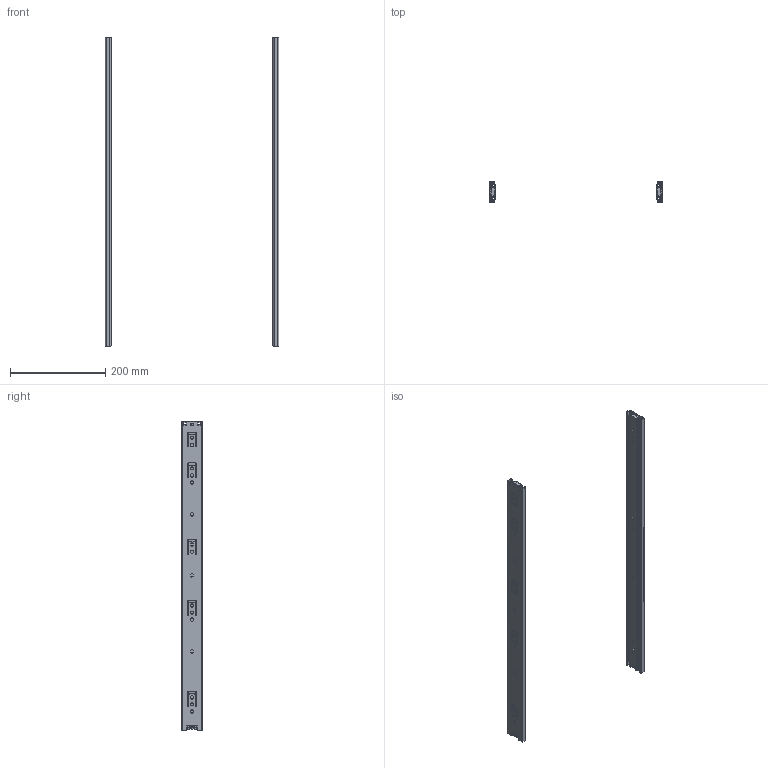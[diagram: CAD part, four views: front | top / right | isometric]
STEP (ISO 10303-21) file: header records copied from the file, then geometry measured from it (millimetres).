
FILE_DESCRIPTION(/* description */ (''),/* implementation_level */ '2;1');
FILE_NAME(/* name */ 'D:\$Workingspace\Designs\Katalog\Cadsoft\GTV Prowadnice\PK-PRO-H45\PK-PRO-H45-650.stp',/* time_stamp */ '2021-01-15T13:17:42+01:00',/* author */ ('tomaszw'),/* organization */ (''),/* preprocessor_version */ 'ST-DEVELOPER v18.1',/* originating_system */ 'Autodesk Inventor 2020',/* authorisation */ '');
FILE_SCHEMA (('AUTOMOTIVE_DESIGN { 1 0 10303 214 3 1 1 }'));
Length unit declared in the file: millimetre
Products named in the file (5): PK-PRO-H45-650; Blokada_4; PK-PRO-H45_1-650; PK-PRO-H45_2-650; PK-PRO-H45_3-650
Assembly tree (8 placements, depth 2):
  PK-PRO-H45-650
    Blokada_4  x2
    PK-PRO-H45_1-650  x2
    PK-PRO-H45_2-650  x2
    PK-PRO-H45_3-650  x2
Bounding box: 364 x 44.5 x 650 mm (x, y, z)
Volume: 248800 mm3; surface area: 405197.1 mm2
Topology: 8 solids, 8 shells, 558 faces, 1638 edges, 1096 vertices
Faces by surface type: cylinder 286, plane 268, cone 4
Full cylindrical faces by diameter (mm): 4.5 x6, 5 x2, 5.2 x2, 6 x8, 7 x6
Entity records: 10121 total; most frequent: CARTESIAN_POINT 1763, DIRECTION 1689, ORIENTED_EDGE 1638, EDGE_CURVE 819, AXIS2_PLACEMENT_3D 586, VERTEX_POINT 548, LINE 517, VECTOR 517
